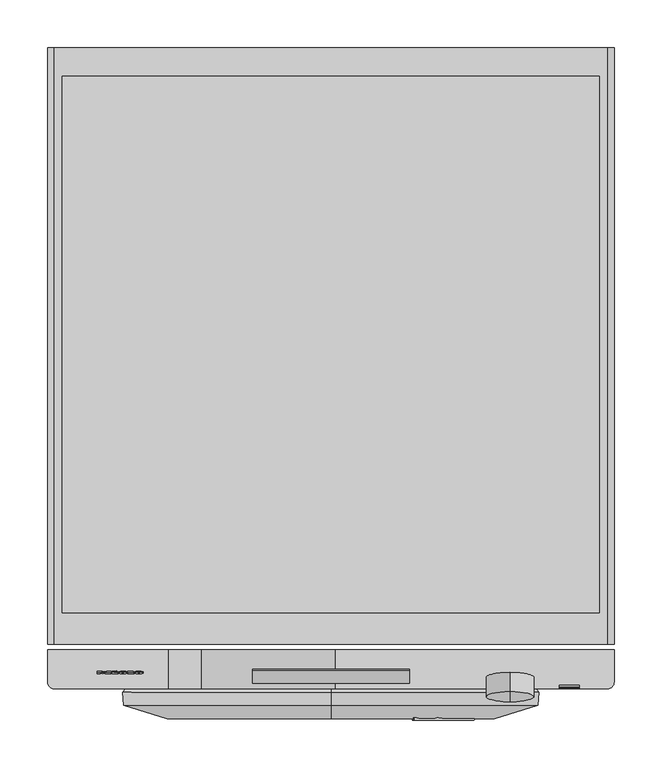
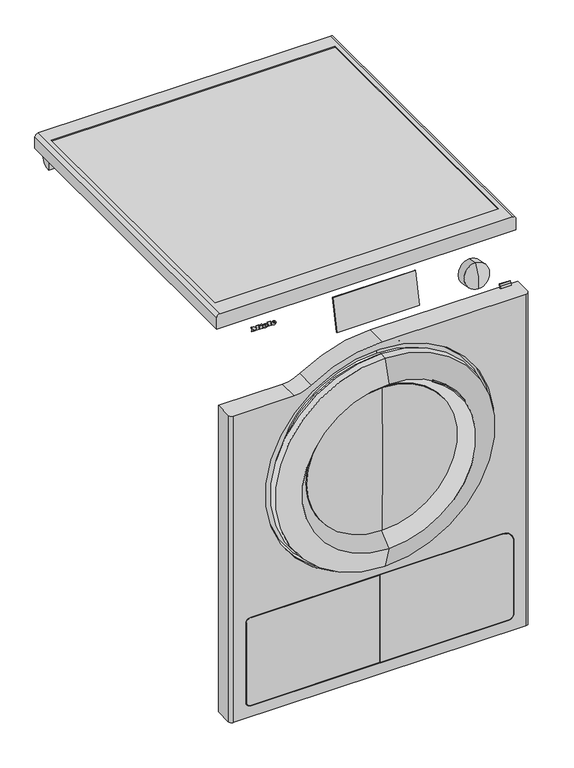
"""IFC4 building model written with IfcOpenShell, lengths in millimetres: proxy geometry, 12752390_B_PDR508ROPEL_LW : 52508362_B_12752390_PDR508ROPEL_LW."""

from ifc_helpers import new_model, si_unit, point, frame, frame_2d, origin, place, context, project, spatial, polyline, circle_curve, ellipse_curve, trimmed, segment, composite_curve, outline, extrude, source, transform, mapped, element, save
from ifc_brep_helpers import plane_surface, cylinder_surface, revolved_surface, extruded_surface, advanced_brep


def specialty_equipment_35a6990b(model_context):
    return source(origin(), model_context, "Body", "SolidModel", [
        advanced_brep(
        [(-202.64, -660.6785086, 811.5729364), (-202.64, -660.5105159, 812.3632796), (-197.288, -660.5105159, 812.3632796), (-206.6, -660.5105159, 812.3632796), (-204.4, -661.0727091, 809.7183685), (-197.424, -660.6785086, 811.5729364), (-199.84, -660.6785086, 811.5729364), (-201.744, -660.8647975, 810.6965161), (-202.64, -660.2976144, 813.3649028), (-202.64, -660.1163154, 814.2178475), (-201.272, -660.1163154, 814.2178475), (-201.272, -660.2976144, 813.3649028), (-202.64, -659.700361, 811.3650247), (-201.744, -659.8866499, 810.4886044), (-199.84, -659.700361, 811.3650247), (-197.424, -659.700361, 811.3650247), (-204.4, -660.0945615, 809.5104568), (-206.6, -659.5323683, 812.1553679), (-197.288, -659.5323683, 812.1553679), (-202.64, -659.5323683, 812.1553679), (-202.64, -659.3194668, 813.1569911), (-201.272, -659.3194668, 813.1569911), (-201.272, -659.1381678, 814.0099358), (-202.64, -659.1381678, 814.0099358)],
        [
            (0, 1),
            (1, 2),
            (2, 3, ellipse_curve(frame((-201.944, -660.5105159, 812.3632796), z_axis=(0.0, -0.9781476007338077, 0.2079116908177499), x_axis=(-1.0, 0.0, 0.0)), 4.656, 3.848)),
            (3, 4, circle_curve(frame((-203.5039564, -660.453964, 812.6293358), z_axis=(0.0, -0.9781476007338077, 0.2079116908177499), x_axis=(0.0, -0.2079116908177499, -0.9781476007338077)), 3.1079688)),
            (4, 5, circle_curve(frame((-202.0372064, -660.0148545, 814.6951835), z_axis=(0.0, -0.9781476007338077, 0.2079116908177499), x_axis=(0.0, -0.2079116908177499, -0.9781476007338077)), 5.6098607)),
            (5, 6),
            (6, 7, circle_curve(frame((-201.3529412, -660.5238223, 812.3006782), z_axis=(0.0, 0.9781476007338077, -0.2079116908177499), x_axis=(0.0, -0.2079116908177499, -0.9781476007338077)), 1.6859795)),
            (7, 0, circle_curve(frame((-201.744, -660.6785086, 811.5729364), z_axis=(0.0, 0.9781476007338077, -0.2079116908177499), x_axis=(0.0, -0.2079116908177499, -0.9781476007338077)), 0.896)),
            (8, 9),
            (9, 10, circle_curve(frame((-201.956, -660.1163154, 814.2178475), z_axis=(0.0, 0.9781476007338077, -0.2079116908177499), x_axis=(0.0, -0.2079116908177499, -0.9781476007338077)), 0.684)),
            (10, 11),
            (11, 8),
            (12, 13, circle_curve(frame((-201.744, -659.700361, 811.3650247), z_axis=(0.0, -0.9781476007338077, 0.2079116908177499), x_axis=(0.0, -0.2079116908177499, -0.9781476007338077)), 0.896)),
            (13, 14, circle_curve(frame((-201.3529412, -659.5456747, 812.0927665), z_axis=(0.0, -0.9781476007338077, 0.2079116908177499), x_axis=(0.0, -0.2079116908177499, -0.9781476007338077)), 1.6859795)),
            (14, 15),
            (15, 16, circle_curve(frame((-202.0372064, -659.0367069, 814.4872718), z_axis=(0.0, 0.9781476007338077, -0.2079116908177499), x_axis=(0.0, -0.2079116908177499, -0.9781476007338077)), 5.6098607)),
            (16, 17, circle_curve(frame((-203.5039564, -659.4758164, 812.4214241), z_axis=(0.0, 0.9781476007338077, -0.2079116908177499), x_axis=(0.0, -0.2079116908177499, -0.9781476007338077)), 3.1079688)),
            (17, 18, ellipse_curve(frame((-201.944, -659.5323683, 812.1553679), z_axis=(0.0, 0.9781476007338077, -0.2079116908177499), x_axis=(-1.0, 0.0, 0.0)), 4.656, 3.848)),
            (18, 19),
            (19, 12),
            (20, 21),
            (21, 22),
            (22, 23, circle_curve(frame((-201.956, -659.1381678, 814.0099358), z_axis=(0.0, -0.9781476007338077, 0.2079116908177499), x_axis=(0.0, -0.2079116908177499, -0.9781476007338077)), 0.684)),
            (23, 20),
            (0, 12),
            (19, 1),
            (18, 2),
            (5, 15),
            (14, 6),
            (17, 3),
            (13, 7),
            (16, 4),
            (8, 20),
            (23, 9),
            (22, 10),
            (21, 11),
        ],
        [
            plane_surface(frame((-202.64, -660.5105159, 812.3632796), z_axis=(0.0, -0.9781476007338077, 0.2079116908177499), x_axis=(0.0, 0.2079116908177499, 0.9781476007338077))),
            plane_surface(frame((-202.64, -659.5323683, 812.1553679), z_axis=(0.0, 0.9781476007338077, -0.2079116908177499), x_axis=(0.0, -0.2079116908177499, -0.9781476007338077))),
            plane_surface(frame((-202.64, -660.6785086, 811.5729364), z_axis=(1.0000000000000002, 0.0, 0.0), x_axis=(0.0, 0.978147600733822, -0.20791169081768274))),
            plane_surface(frame((-202.64, -660.5105159, 812.3632796), z_axis=(0.0, -0.20791169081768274, -0.978147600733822), x_axis=(0.0, 0.978147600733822, -0.20791169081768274))),
            plane_surface(frame((-197.424, -660.6785086, 811.5729364), z_axis=(0.0, 0.20791169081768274, 0.978147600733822), x_axis=(0.0, 0.978147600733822, -0.20791169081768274))),
            extruded_surface(trimmed(ellipse_curve(frame((-201.944, -658.5542207, 811.9474562), z_axis=(0.0, -0.9781476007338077, 0.2079116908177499), x_axis=(-1.0, 0.0, 0.0)), 4.656, 3.848), [point((-197.288, -658.5542207, 811.9474562))], [point((-206.6, -658.5542207, 811.9474562))], True, "CARTESIAN"), (0.0, -0.9781476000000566, 0.20791169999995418), 1.0000000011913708),
            revolved_surface(polyline([(-201.3529412, -659.896209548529, 810.4436296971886), (-201.3529412, -660.8743571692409, 810.6515413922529)]), (-201.3529412, -659.5456747, 812.0927665), (0.0, 0.9781476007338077, -0.2079116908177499)),
            revolved_surface(polyline([(-201.744, -659.8866498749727, 810.4886044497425), (-201.744, -660.8647974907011, 810.6965161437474)]), (-201.744, -659.700361, 811.3650247), (0.0, 0.9781476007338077, -0.2079116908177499)),
            cylinder_surface(frame((-203.5039564, -659.4758164, 812.4214241), z_axis=(0.0, -0.9781476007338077, 0.2079116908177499), x_axis=(0.0, -0.2079116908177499, -0.9781476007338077)), 3.1079688),
            cylinder_surface(frame((-202.0372064, -659.0367069, 814.4872718), z_axis=(0.0, -0.9781476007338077, 0.2079116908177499), x_axis=(0.0, -0.2079116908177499, -0.9781476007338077)), 5.6098607),
            plane_surface(frame((-202.64, -660.2976144, 813.3649028), z_axis=(1.0000000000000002, 0.0, 0.0), x_axis=(0.0, 0.9781476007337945, -0.20791169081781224))),
            revolved_surface(polyline([(-201.956, -659.2803793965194, 813.340882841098), (-201.956, -660.2585269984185, 813.5487945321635)]), (-201.956, -659.1381678, 814.0099358), (0.0, 0.9781476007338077, -0.2079116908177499)),
            plane_surface(frame((-201.272, -660.1163154, 814.2178475), z_axis=(-1.0000000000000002, 0.0, 0.0), x_axis=(0.0, 0.978147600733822, -0.20791169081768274))),
            plane_surface(frame((-201.272, -660.2976144, 813.3649028), z_axis=(0.0, 0.20791169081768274, 0.978147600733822), x_axis=(0.0, 0.978147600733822, -0.20791169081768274))),
        ],
        [
            (0, [[1, 2, 3, 4, 5, 6, 7, 8], [9, 10, 11, 12]]),
            (1, [[13, 14, 15, 16, 17, 18, 19, 20], [21, 22, 23, 24]]),
            (2, [[-1, 25, -20, 26]]),
            (3, [[-2, -26, -19, 27]]),
            (4, [[-6, 28, -15, 29]]),
            (5, [[-3, -27, -18, 30]]),
            (6, [[-7, -29, -14, 31]]),
            (7, [[-8, -31, -13, -25]]),
            (8, [[-4, -30, -17, 32]]),
            (9, [[-5, -32, -16, -28]]),
            (10, [[-9, 33, -24, 34]]),
            (11, [[-10, -34, -23, 35]]),
            (12, [[-11, -35, -22, 36]]),
            (13, [[-12, -36, -21, -33]]),
        ],
    ),
        advanced_brep(
        [(-219.336, -660.6785086, 811.5729364), (-219.336, -660.5105159, 812.3632796), (-213.984, -660.5105159, 812.3632796), (-223.296, -660.5105159, 812.3632796), (-221.096, -661.0727091, 809.7183685), (-214.12, -660.6785086, 811.5729364), (-216.536, -660.6785086, 811.5729364), (-218.44, -660.8647975, 810.6965161), (-219.336, -660.2976144, 813.3649028), (-219.336, -660.1163154, 814.2178475), (-217.968, -660.1163154, 814.2178475), (-217.968, -660.2976144, 813.3649028), (-219.336, -659.700361, 811.3650247), (-218.44, -659.8866499, 810.4886044), (-216.536, -659.700361, 811.3650247), (-214.12, -659.700361, 811.3650247), (-221.096, -660.0945615, 809.5104568), (-223.296, -659.5323683, 812.1553679), (-213.984, -659.5323683, 812.1553679), (-219.336, -659.5323683, 812.1553679), (-219.336, -659.3194668, 813.1569911), (-217.968, -659.3194668, 813.1569911), (-217.968, -659.1381678, 814.0099358), (-219.336, -659.1381678, 814.0099358)],
        [
            (0, 1),
            (1, 2),
            (2, 3, ellipse_curve(frame((-218.64, -660.5105159, 812.3632796), z_axis=(0.0, -0.9781476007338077, 0.2079116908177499), x_axis=(-1.0, 0.0, 0.0)), 4.656, 3.848)),
            (3, 4, circle_curve(frame((-220.1999564, -660.453964, 812.6293358), z_axis=(0.0, -0.9781476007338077, 0.2079116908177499), x_axis=(0.0, -0.2079116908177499, -0.9781476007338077)), 3.1079688)),
            (4, 5, circle_curve(frame((-218.7332064, -660.0148545, 814.6951835), z_axis=(0.0, -0.9781476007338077, 0.2079116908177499), x_axis=(0.0, -0.2079116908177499, -0.9781476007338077)), 5.6098607)),
            (5, 6),
            (6, 7, circle_curve(frame((-218.0489412, -660.5238223, 812.3006782), z_axis=(0.0, 0.9781476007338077, -0.2079116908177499), x_axis=(0.0, -0.2079116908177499, -0.9781476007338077)), 1.6859795)),
            (7, 0, circle_curve(frame((-218.44, -660.6785086, 811.5729364), z_axis=(0.0, 0.9781476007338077, -0.2079116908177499), x_axis=(0.0, -0.2079116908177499, -0.9781476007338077)), 0.896)),
            (8, 9),
            (9, 10, circle_curve(frame((-218.652, -660.1163154, 814.2178475), z_axis=(0.0, 0.9781476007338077, -0.2079116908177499), x_axis=(0.0, -0.2079116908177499, -0.9781476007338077)), 0.684)),
            (10, 11),
            (11, 8),
            (12, 13, circle_curve(frame((-218.44, -659.700361, 811.3650247), z_axis=(0.0, -0.9781476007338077, 0.2079116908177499), x_axis=(0.0, -0.2079116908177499, -0.9781476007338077)), 0.896)),
            (13, 14, circle_curve(frame((-218.0489412, -659.5456747, 812.0927665), z_axis=(0.0, -0.9781476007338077, 0.2079116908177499), x_axis=(0.0, -0.2079116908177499, -0.9781476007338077)), 1.6859795)),
            (14, 15),
            (15, 16, circle_curve(frame((-218.7332064, -659.0367069, 814.4872718), z_axis=(0.0, 0.9781476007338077, -0.2079116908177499), x_axis=(0.0, -0.2079116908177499, -0.9781476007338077)), 5.6098607)),
            (16, 17, circle_curve(frame((-220.1999564, -659.4758164, 812.4214241), z_axis=(0.0, 0.9781476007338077, -0.2079116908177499), x_axis=(0.0, -0.2079116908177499, -0.9781476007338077)), 3.1079688)),
            (17, 18, ellipse_curve(frame((-218.64, -659.5323683, 812.1553679), z_axis=(0.0, 0.9781476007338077, -0.2079116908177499), x_axis=(-1.0, 0.0, 0.0)), 4.656, 3.848)),
            (18, 19),
            (19, 12),
            (20, 21),
            (21, 22),
            (22, 23, circle_curve(frame((-218.652, -659.1381678, 814.0099358), z_axis=(0.0, -0.9781476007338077, 0.2079116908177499), x_axis=(0.0, -0.2079116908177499, -0.9781476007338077)), 0.684)),
            (23, 20),
            (0, 12),
            (19, 1),
            (18, 2),
            (5, 15),
            (14, 6),
            (17, 3),
            (13, 7),
            (16, 4),
            (8, 20),
            (23, 9),
            (22, 10),
            (21, 11),
        ],
        [
            plane_surface(frame((-219.336, -660.5105159, 812.3632796), z_axis=(0.0, -0.9781476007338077, 0.2079116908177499), x_axis=(0.0, 0.2079116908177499, 0.9781476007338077))),
            plane_surface(frame((-219.336, -659.5323683, 812.1553679), z_axis=(0.0, 0.9781476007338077, -0.2079116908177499), x_axis=(0.0, -0.2079116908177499, -0.9781476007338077))),
            plane_surface(frame((-219.336, -660.6785086, 811.5729364), z_axis=(1.0000000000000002, 0.0, 0.0), x_axis=(0.0, 0.978147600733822, -0.20791169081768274))),
            plane_surface(frame((-219.336, -660.5105159, 812.3632796), z_axis=(0.0, -0.20791169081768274, -0.978147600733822), x_axis=(0.0, 0.978147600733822, -0.20791169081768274))),
            plane_surface(frame((-214.12, -660.6785086, 811.5729364), z_axis=(0.0, 0.20791169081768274, 0.978147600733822), x_axis=(0.0, 0.978147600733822, -0.20791169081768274))),
            extruded_surface(trimmed(ellipse_curve(frame((-218.64, -658.5542207, 811.9474562), z_axis=(0.0, -0.9781476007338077, 0.2079116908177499), x_axis=(-1.0, 0.0, 0.0)), 4.656, 3.848), [point((-213.984, -658.5542207, 811.9474562))], [point((-223.296, -658.5542207, 811.9474562))], True, "CARTESIAN"), (0.0, -0.9781476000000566, 0.20791169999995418), 1.0000000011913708),
            revolved_surface(polyline([(-218.0489412, -659.896209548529, 810.4436296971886), (-218.0489412, -660.8743571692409, 810.6515413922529)]), (-218.0489412, -659.5456747, 812.0927665), (0.0, 0.9781476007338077, -0.2079116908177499)),
            revolved_surface(polyline([(-218.44, -659.8866498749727, 810.4886044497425), (-218.44, -660.8647974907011, 810.6965161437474)]), (-218.44, -659.700361, 811.3650247), (0.0, 0.9781476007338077, -0.2079116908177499)),
            cylinder_surface(frame((-220.1999564, -659.4758164, 812.4214241), z_axis=(0.0, -0.9781476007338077, 0.2079116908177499), x_axis=(0.0, -0.2079116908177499, -0.9781476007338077)), 3.1079688),
            cylinder_surface(frame((-218.7332064, -659.0367069, 814.4872718), z_axis=(0.0, -0.9781476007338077, 0.2079116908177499), x_axis=(0.0, -0.2079116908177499, -0.9781476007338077)), 5.6098607),
            plane_surface(frame((-219.336, -660.2976144, 813.3649028), z_axis=(1.0000000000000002, 0.0, 0.0), x_axis=(0.0, 0.9781476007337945, -0.20791169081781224))),
            revolved_surface(polyline([(-218.652, -659.2803793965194, 813.340882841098), (-218.652, -660.2585269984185, 813.5487945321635)]), (-218.652, -659.1381678, 814.0099358), (0.0, 0.9781476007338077, -0.2079116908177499)),
            plane_surface(frame((-217.968, -660.1163154, 814.2178475), z_axis=(-1.0000000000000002, 0.0, 0.0), x_axis=(0.0, 0.978147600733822, -0.20791169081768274))),
            plane_surface(frame((-217.968, -660.2976144, 813.3649028), z_axis=(0.0, 0.20791169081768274, 0.978147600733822), x_axis=(0.0, 0.978147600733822, -0.20791169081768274))),
        ],
        [
            (0, [[1, 2, 3, 4, 5, 6, 7, 8], [9, 10, 11, 12]]),
            (1, [[13, 14, 15, 16, 17, 18, 19, 20], [21, 22, 23, 24]]),
            (2, [[-1, 25, -20, 26]]),
            (3, [[-2, -26, -19, 27]]),
            (4, [[-6, 28, -15, 29]]),
            (5, [[-3, -27, -18, 30]]),
            (6, [[-7, -29, -14, 31]]),
            (7, [[-8, -31, -13, -25]]),
            (8, [[-4, -30, -17, 32]]),
            (9, [[-5, -32, -16, -28]]),
            (10, [[-9, 33, -24, 34]]),
            (11, [[-10, -34, -23, 35]]),
            (12, [[-11, -35, -22, 36]]),
            (13, [[-12, -36, -21, -33]]),
        ],
    ),
        extrude(outline(polyline([(0.0, 0.0), (-0.0109087, -2.9993294), (-1.4390416, -2.9920868), (-1.4315307, 0.0), (0.0, 0.0)])), frame((-228.08, -658.5294023, 816.873952), z_axis=(0.0, -0.9781476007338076, 0.20791169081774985), x_axis=(-0.42472021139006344, 0.18822758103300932, 0.8855411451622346)), (0.0, 0.0, 1.0), 1.0),
        extrude(outline(polyline([(-0.4933908, 2.4141097), (-2.7800844, -2.4601583), (-7.0459742, -0.4588766), (-7.4401146, -1.2990179), (-8.6568709, -0.728194), (-5.976037, 4.9862153), (-4.7592806, 4.4153913), (-5.1636142, 3.5535223), (-2.1941494, 2.16044), (-1.7898157, 3.0223091), (-0.4933908, 2.4141097)])), frame((-228.08, -658.5294023, 816.873952), z_axis=(0.0, -0.9781476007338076, 0.20791169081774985), x_axis=(-0.42472021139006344, 0.18822758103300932, 0.8855411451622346)), (0.0, 0.0, 1.0), 1.0),
        extrude(outline(polyline([(0.0, 0.0), (0.0, -1.3039999), (-5.504, -1.3039999), (-5.504, 5.352), (-6.488, 5.352), (-6.488, 6.696), (0.0, 6.696), (0.0, 5.352), (-0.96, 5.352), (-0.96, 0.0), (0.0, 0.0)])), frame((-213.536, -658.7023849, 816.0601332), z_axis=(0.0, -0.9781476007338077, 0.2079116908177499), x_axis=(-1.0, 0.0, 0.0)), (0.0, 0.0, 1.0), 1.0),
        extrude(outline(polyline([(0.0, 0.0), (0.0, -1.3039999), (-5.576, -1.3039999), (-7.92, 1.6960001), (-10.256, -1.3039999), (-15.128, -1.3039999), (-15.128, 0.0), (-14.112, 0.0), (-14.112, 5.352), (-15.128, 5.352), (-15.128, 6.696), (-8.744, 6.696), (-8.744, 5.352), (-9.728, 5.352), (-9.728, 1.8807777), (-6.136, 6.696), (-2.56, 1.9488753), (-2.56, 5.352), (-3.52, 5.352), (-3.52, 6.696), (0.0, 6.696), (0.0, 5.352), (-0.968, 5.352), (-0.968, 0.0), (0.0, 0.0)])), frame((-246.0, -658.7023849, 816.0601332), z_axis=(0.0, -0.9781476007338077, 0.2079116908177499), x_axis=(-1.0, 0.0, 0.0)), (0.0, 0.0, 1.0), 1.0),
        extrude(outline(composite_curve([segment(trimmed(circle_curve(frame_2d((579.5, 0.0)), 230.0), [point((386.3181818, 124.8230152))], [point((386.3181818, -124.8230152))], True, "CARTESIAN"), True, "CONTINUOUS"), segment(trimmed(circle_curve(frame_2d((469.5, 0.0)), 150.0), [point((386.3181818, -124.8230152))], [point((386.3181818, 124.8230152))], False, "CARTESIAN"), True, "CONTINUOUS")], self_intersect=False)), frame((0.0, -680.8, 0.0), z_axis=(0.0, 1.0, 0.0), x_axis=(0.0, 0.0, 1.0)), (0.0, 0.0, 1.0), 12.6),
        advanced_brep(
        [(86.55, -710.167863, 619.4089974), (86.55, -707.167863, 619.4089974), (149.9089974, -710.167863, 556.05), (149.9089974, -707.167863, 556.05)],
        [
            (0, 1, circle_curve(frame((86.55, -708.667863, 619.4089974), z_axis=(-0.8660254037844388, 0.0, 0.49999999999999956), x_axis=(0.0, 1.0, 0.0)), 1.5)),
            (1, 0, circle_curve(frame((86.55, -708.667863, 619.4089974), z_axis=(-0.8660254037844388, 0.0, 0.49999999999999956), x_axis=(0.0, 1.0, 0.0)), 1.5)),
            (2, 3, circle_curve(frame((149.9089974, -708.667863, 556.05), z_axis=(0.5000000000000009, 0.0, -0.8660254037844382), x_axis=(0.0, 1.0, 0.0)), 1.5)),
            (3, 2, circle_curve(frame((149.9089974, -708.667863, 556.05), z_axis=(0.5000000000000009, 0.0, -0.8660254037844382), x_axis=(0.0, 1.0, 0.0)), 1.5)),
            (2, 0, circle_curve(frame((0.0, -710.167863, 469.5), z_axis=(0.0, -1.0, 0.0), x_axis=(0.49999999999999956, 0.0, 0.8660254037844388)), 173.1)),
            (1, 3, circle_curve(frame((0.0, -707.167863, 469.5), z_axis=(0.0, 1.0, 0.0), x_axis=(0.49999999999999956, 0.0, 0.8660254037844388)), 173.1)),
        ],
        [
            plane_surface(frame((0.0, 1543.3738435, 469.5), z_axis=(-0.8660254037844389, 0.0, 0.4999999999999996), x_axis=(0.4999999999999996, 0.0, 0.8660254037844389))),
            plane_surface(frame((0.0, 1543.3738435, 469.5), z_axis=(0.5000000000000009, 0.0, -0.8660254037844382), x_axis=(0.8660254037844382, 0.0, 0.5000000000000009))),
            revolved_surface(trimmed(ellipse_curve(frame((86.55, -708.667863, 619.4089974), z_axis=(0.8660254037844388, 0.0, -0.49999999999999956), x_axis=(0.0, 1.0, 0.0)), 1.5, 1.5), [point((86.55, -710.167863, 619.4089974))], [point((86.55, -707.167863, 619.4089974))], True, "CARTESIAN"), (0.0, 1543.3738435, 469.5), (0.0, -1.0, 0.0)),
            revolved_surface(trimmed(ellipse_curve(frame((86.55, -708.667863, 619.4089974), z_axis=(0.8660254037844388, 0.0, -0.49999999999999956), x_axis=(0.0, 1.0, 0.0)), 1.5, 1.5), [point((86.55, -707.167863, 619.4089974))], [point((86.55, -710.167863, 619.4089974))], True, "CARTESIAN"), (0.0, 1543.3738435, 469.5), (0.0, -1.0, 0.0)),
        ],
        [
            (0, [[1, 2]]),
            (1, [[3, 4]]),
            (2, [[5, -2, 6, -3]]),
            (3, [[-6, -1, -5, -4]]),
        ],
    ),
        advanced_brep(
        [(0.0, -668.2, 319.5), (0.0, -668.2, 619.5), (0.0, -680.5454628, 619.5), (0.0, -680.5454628, 319.5), (0.0, -668.2, 305.5), (0.0, -668.2, 633.5), (0.0, -665.0, 294.0), (0.0, -665.0, 645.0), (0.0, -665.0, 262.2782663), (0.0, -665.0, 676.7217337), (0.0, -680.8, 249.3), (0.0, -680.8, 689.7), (0.0, -694.2157986, 250.5), (0.0, -694.2157986, 688.5), (0.0, -708.667863, 296.4), (0.0, -708.667863, 642.6)],
        [
            (0, 1, circle_curve(frame((0.0, -668.2, 469.5), z_axis=(0.0, 1.0, 0.0), x_axis=(0.0, 0.0, 1.0)), 150.0)),
            (1, 2),
            (2, 3, circle_curve(frame((0.0, -680.5454628, 469.5), z_axis=(0.0, -1.0, 0.0), x_axis=(0.0, 0.0, 1.0)), 150.0)),
            (3, 0),
            (1, 0, circle_curve(frame((0.0, -668.2, 469.5), z_axis=(0.0, 1.0, 0.0), x_axis=(0.0, 0.0, 1.0)), 150.0)),
            (3, 2, circle_curve(frame((0.0, -680.5454628, 469.5), z_axis=(0.0, -1.0, 0.0), x_axis=(0.0, 0.0, 1.0)), 150.0)),
            (4, 5, circle_curve(frame((0.0, -668.2, 469.5), z_axis=(0.0, 1.0, 0.0), x_axis=(0.0, 0.0, 1.0)), 164.0)),
            (5, 1),
            (0, 4),
            (5, 4, circle_curve(frame((0.0, -668.2, 469.5), z_axis=(0.0, 1.0, 0.0), x_axis=(0.0, 0.0, 1.0)), 164.0)),
            (6, 7, circle_curve(frame((0.0, -665.0, 469.5), z_axis=(0.0, 1.0, 0.0), x_axis=(0.0, 0.0, 1.0)), 175.5)),
            (7, 5),
            (4, 6),
            (7, 6, circle_curve(frame((0.0, -665.0, 469.5), z_axis=(0.0, 1.0, 0.0), x_axis=(0.0, 0.0, 1.0)), 175.5)),
            (8, 9, circle_curve(frame((0.0, -665.0, 469.5), z_axis=(0.0, 1.0, 0.0), x_axis=(0.0, 0.0, 1.0)), 207.2217337)),
            (9, 7),
            (6, 8),
            (9, 8, circle_curve(frame((0.0, -665.0, 469.5), z_axis=(0.0, 1.0, 0.0), x_axis=(0.0, 0.0, 1.0)), 207.2217337)),
            (10, 11, circle_curve(frame((0.0, -680.8, 469.5), z_axis=(0.0, 1.0, 0.0), x_axis=(0.0, 0.0, 1.0)), 220.2)),
            (11, 9),
            (8, 10),
            (11, 10, circle_curve(frame((0.0, -680.8, 469.5), z_axis=(0.0, 1.0, 0.0), x_axis=(0.0, 0.0, 1.0)), 220.2)),
            (12, 13, circle_curve(frame((0.0, -694.2157986, 469.5), z_axis=(0.0, 1.0, 0.0), x_axis=(0.0, 0.0, 1.0)), 219.0)),
            (13, 11),
            (10, 12),
            (13, 12, circle_curve(frame((0.0, -694.2157986, 469.5), z_axis=(0.0, 1.0, 0.0), x_axis=(0.0, 0.0, 1.0)), 219.0)),
            (14, 15, circle_curve(frame((0.0, -708.667863, 469.5), z_axis=(0.0, 1.0, 0.0), x_axis=(0.0, 0.0, 1.0)), 173.1)),
            (15, 13, circle_curve(frame((0.0, -129.6, 485.5), z_axis=(-1.0, 0.0, 0.0), x_axis=(0.0, 1.0, 0.0)), 600.0)),
            (12, 14, circle_curve(frame((0.0, -129.6, 453.5), z_axis=(-1.0, 0.0, 0.0), x_axis=(0.0, 1.0, 0.0)), 600.0)),
            (15, 14, circle_curve(frame((0.0, -708.667863, 469.5), z_axis=(0.0, 1.0, 0.0), x_axis=(0.0, 0.0, 1.0)), 173.1)),
            (2, 15),
            (14, 3),
        ],
        [
            revolved_surface(polyline([(0.0, -680.5454628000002, 619.5), (0.0, -668.2000000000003, 619.5)]), (0.0, 1543.3738435, 469.5), (0.0, -1.0, 0.0)),
            plane_surface(frame((0.0, -668.2, 469.5), z_axis=(0.0, 1.0, 0.0), x_axis=(0.0, 0.0, 1.0))),
            revolved_surface(polyline([(0.0, -668.2, 633.5), (0.0, -665.0, 645.0)]), (0.0, 1543.3738435, 469.5), (0.0, -1.0, 0.0)),
            plane_surface(frame((0.0, -665.0, 469.5), z_axis=(0.0, 1.0, 0.0), x_axis=(0.0, 0.0, 1.0))),
            revolved_surface(polyline([(0.0, -665.0, 676.7217337), (0.0, -680.8, 689.7)]), (0.0, 1543.3738435, 469.5), (0.0, -1.0, 0.0)),
            revolved_surface(polyline([(0.0, -680.8, 689.7), (0.0, -694.2157986, 688.5)]), (0.0, 1543.3738435, 469.5), (0.0, -1.0, 0.0)),
            revolved_surface(trimmed(ellipse_curve(frame((0.0, -129.6, 485.5), z_axis=(1.0, 0.0, 0.0), x_axis=(0.0, 1.0, 0.0)), 600.0, 600.0), [point((0.0, -694.2157986, 688.5))], [point((0.0, -708.667863, 642.6))], True, "CARTESIAN"), (0.0, 1543.3738435, 469.5), (0.0, -1.0, 0.0)),
            revolved_surface(polyline([(0.0, -708.667863, 642.6), (0.0, -680.5454628, 619.5)]), (0.0, 1543.3738435, 469.5), (0.0, -1.0, 0.0)),
        ],
        [
            (0, [[1, 2, 3, 4]]),
            (0, [[5, -4, 6, -2]]),
            (1, [[7, 8, -1, 9]]),
            (1, [[10, -9, -5, -8]]),
            (2, [[11, 12, -7, 13]]),
            (2, [[14, -13, -10, -12]]),
            (3, [[15, 16, -11, 17]]),
            (3, [[18, -17, -14, -16]]),
            (4, [[19, 20, -15, 21]]),
            (4, [[22, -21, -18, -20]]),
            (5, [[23, 24, -19, 25]]),
            (5, [[26, -25, -22, -24]]),
            (6, [[27, 28, -23, 29]]),
            (6, [[30, -29, -26, -28]]),
            (7, [[-3, 31, -27, 32]]),
            (7, [[-6, -32, -30, -31]]),
        ],
    ),
        advanced_brep(
        [(0.0, -681.3847498, 319.5), (0.0, -681.3847498, 619.5), (0.0, -684.2, 469.5), (0.0, -683.8865105, 319.5), (0.0, -683.8865105, 619.5), (0.0, -686.7, 469.5)],
        [
            (0, 1, circle_curve(frame((0.0, -681.3847498, 469.5), z_axis=(0.0, 1.0, 0.0), x_axis=(0.0, 0.0, 1.0)), 150.0)),
            (1, 2, circle_curve(frame((0.0, 3313.3, 469.5), z_axis=(1.0, 0.0, 0.0), x_axis=(0.0, 1.0, 0.0)), 3997.5)),
            (2, 0, circle_curve(frame((0.0, 3313.3, 469.5), z_axis=(1.0, 0.0, 0.0), x_axis=(0.0, 1.0, 0.0)), 3997.5)),
            (1, 0, circle_curve(frame((0.0, -681.3847498, 469.5), z_axis=(0.0, 1.0, 0.0), x_axis=(0.0, 0.0, 1.0)), 150.0)),
            (3, 4, circle_curve(frame((0.0, -683.8865105, 469.5), z_axis=(0.0, 1.0, 0.0), x_axis=(0.0, 0.0, 1.0)), 150.0)),
            (4, 1),
            (0, 3),
            (4, 3, circle_curve(frame((0.0, -683.8865105, 469.5), z_axis=(0.0, 1.0, 0.0), x_axis=(0.0, 0.0, 1.0)), 150.0)),
            (5, 4, circle_curve(frame((0.0, 3313.3, 469.5), z_axis=(-1.0, 0.0, 0.0), x_axis=(0.0, 1.0, 0.0)), 4000.0)),
            (3, 5, circle_curve(frame((0.0, 3313.3, 469.5), z_axis=(-1.0, 0.0, 0.0), x_axis=(0.0, 1.0, 0.0)), 4000.0)),
        ],
        [
            revolved_surface(trimmed(ellipse_curve(frame((0.0, 3313.3, 469.5), z_axis=(-1.0, 0.0, 0.0), x_axis=(0.0, 1.0, 0.0)), 3997.5, 3997.5), [point((0.0, -684.2, 469.5))], [point((0.0, -681.3847498, 619.5))], True, "CARTESIAN"), (0.0, 1543.3738435, 469.5), (0.0, -1.0, 0.0)),
            cylinder_surface(frame((0.0, 1543.3738435, 469.5), z_axis=(0.0, -1.0, 0.0), x_axis=(0.0, 0.0, 1.0)), 150.0),
            revolved_surface(trimmed(ellipse_curve(frame((0.0, 3313.3, 469.5), z_axis=(1.0, 0.0, 0.0), x_axis=(0.0, 1.0, 0.0)), 4000.0, 4000.0), [point((0.0, -683.8865105, 619.5))], [point((0.0, -686.7, 469.5))], True, "CARTESIAN"), (0.0, 1543.3738435, 469.5), (0.0, -1.0, 0.0)),
        ],
        [
            (0, [[1, 2, 3]]),
            (0, [[4, -3, -2]]),
            (1, [[5, 6, -1, 7]]),
            (1, [[8, -7, -4, -6]]),
            (2, [[9, -5, 10]]),
            (2, [[-10, -8, -9]]),
        ],
    ),
        advanced_brep(
        [(-291.0, -630.0, 845.0), (291.0, -630.0, 845.0), (291.0, -3.0, 845.0), (-291.0, -3.0, 845.0), (-282.5, -33.0, 845.0), (282.5, -33.0, 845.0), (282.5, -597.0, 845.0), (-282.5, -597.0, 845.0), (-282.5, -33.0, 842.7), (282.5, -33.0, 842.7), (298.0, -630.0, 815.0), (-298.0, -630.0, 815.0), (-298.0, -3.0, 815.0), (298.0, -3.0, 815.0), (298.0, -630.0, 838.0), (-298.0, -630.0, 838.0), (-298.0, -3.0, 838.0), (298.0, -3.0, 838.0), (-282.5, -597.0, 842.7), (282.5, -597.0, 842.7)],
        [
            (0, 1),
            (1, 2),
            (2, 3),
            (3, 0),
            (4, 5),
            (5, 6),
            (6, 7),
            (7, 4),
            (8, 9),
            (9, 5),
            (4, 8),
            (10, 11),
            (11, 12),
            (12, 13),
            (13, 10),
            (10, 14),
            (14, 1, circle_curve(frame((291.0, -630.0, 838.0), z_axis=(0.0, -1.0, 0.0), x_axis=(1.0, 0.0, 0.0)), 7.0)),
            (0, 15, circle_curve(frame((-291.0, -630.0, 838.0), z_axis=(0.0, -1.0, 0.0), x_axis=(1.0, 0.0, 0.0)), 7.0)),
            (15, 11),
            (12, 16),
            (16, 3, circle_curve(frame((-291.0, -3.0, 838.0), z_axis=(0.0, 1.0, 0.0), x_axis=(1.0, 0.0, 0.0)), 7.0)),
            (2, 17, circle_curve(frame((291.0, -3.0, 838.0), z_axis=(0.0, 1.0, 0.0), x_axis=(1.0, 0.0, 0.0)), 7.0)),
            (17, 13),
            (17, 14),
            (15, 16),
            (8, 18),
            (18, 19),
            (19, 9),
            (7, 18),
            (19, 6),
        ],
        [
            plane_surface(frame((291.0, -630.0, 845.0), z_axis=(0.0, 0.0, 1.0), x_axis=(0.0, 1.0, 0.0))),
            plane_surface(frame((282.5, -33.0, 845.0), z_axis=(0.0, -1.0, 0.0), x_axis=(0.0, 0.0, -1.0))),
            plane_surface(frame((-298.0, -630.0, 815.0), z_axis=(0.0, 0.0, -1.0), x_axis=(0.0, 1.0, 0.0))),
            plane_surface(frame((298.0, -630.0, 815.0), z_axis=(0.0, -1.0, 0.0), x_axis=(0.0, 0.0, 1.0))),
            plane_surface(frame((298.0, -3.0, 815.0), z_axis=(0.0, 1.0, 0.0), x_axis=(0.0, 0.0, -1.0))),
            plane_surface(frame((298.0, -630.0, 815.0), z_axis=(1.0, 0.0, 0.0), x_axis=(0.0, 1.0, 0.0))),
            plane_surface(frame((-298.0, -630.0, 838.0), z_axis=(-1.0, 0.0, 0.0), x_axis=(0.0, 1.0, 0.0))),
            cylinder_surface(frame((291.0, -3.0, 838.0), z_axis=(0.0, -1.0, 0.0), x_axis=(1.0, 0.0, 0.0)), 7.0),
            cylinder_surface(frame((-291.0, -3.0, 838.0), z_axis=(0.0, -1.0, 0.0), x_axis=(1.0, 0.0, 0.0)), 7.0),
            plane_surface(frame((-282.5, -33.0, 842.7), z_axis=(0.0, 0.0, 1.0), x_axis=(1.0, 0.0, 0.0))),
            plane_surface(frame((-282.5, -33.0, 845.0), z_axis=(1.0, 0.0, 0.0), x_axis=(0.0, 0.0, -1.0))),
            plane_surface(frame((282.5, -597.0, 845.0), z_axis=(-1.0, 0.0, 0.0), x_axis=(0.0, 0.0, -1.0))),
            plane_surface(frame((-282.5, -597.0, 845.0), z_axis=(0.0, 1.0, 0.0), x_axis=(0.0, 0.0, -1.0))),
        ],
        [
            (0, [[1, 2, 3, 4], [5, 6, 7, 8]]),
            (1, [[9, 10, -5, 11]]),
            (2, [[12, 13, 14, 15]]),
            (3, [[16, 17, -1, 18, 19, -12]]),
            (4, [[-14, 20, 21, -3, 22, 23]]),
            (5, [[-16, -15, -23, 24]]),
            (6, [[-19, 25, -20, -13]]),
            (7, [[-17, -24, -22, -2]]),
            (8, [[-18, -4, -21, -25]]),
            (9, [[-9, 26, 27, 28]]),
            (10, [[-26, -11, -8, 29]]),
            (11, [[-28, 30, -6, -10]]),
            (12, [[-27, -29, -7, -30]]),
        ],
    ),
        extrude(outline(composite_curve([segment(polyline([(-12.6220839, 815.0), (-12.6220839, 806.1251898)]), True, "CONTINUOUS"), segment(trimmed(circle_curve(frame_2d((-35.0, 806.1251898)), 22.3779161), [point((-12.6220839, 806.1251898))], [point((-34.0, 783.7696284))], False, "CARTESIAN"), True, "CONTINUOUS"), segment(polyline([(-34.0, 783.7696284), (-34.0, 815.0), (-12.6220839, 815.0)]), True, "CONTINUOUS")], self_intersect=False)), frame((264.2, 0.0, 0.0), z_axis=(1.0, 0.0, 0.0), x_axis=(0.0, 1.0, 0.0)), (0.0, 0.0, 1.0), 24.0),
        extrude(outline(composite_curve([segment(polyline([(-34.0, 783.7696284), (-34.0, 815.0), (-12.6220839, 815.0), (-12.6220839, 806.1251898)]), True, "CONTINUOUS"), segment(trimmed(circle_curve(frame_2d((-35.0, 806.1251898)), 22.3779161), [point((-12.6220839, 806.1251898))], [point((-34.0, 783.7696284))], False, "CARTESIAN"), True, "CONTINUOUS")], self_intersect=False)), frame((-288.2, 0.0, 0.0), z_axis=(1.0, 0.0, 0.0), x_axis=(0.0, 1.0, 0.0)), (0.0, 0.0, 1.0), 24.0),
        extrude(outline(composite_curve([segment(trimmed(circle_curve(frame_2d((427.0147084, 38.0)), 155.0), [point((311.4845296, 141.3333333))], [point((427.0147084, 193.0))], False, "CARTESIAN"), True, "CONTINUOUS"), segment(trimmed(circle_curve(frame_2d((387.1232766, 189.5231113)), 40.0426658), [point((427.0147084, 193.0))], [point((415.6484905, 161.421025))], False, "CARTESIAN"), True, "CONTINUOUS"), segment(trimmed(circle_curve(frame_2d((579.5, 0.0)), 230.0088355), [point((415.6484905, 161.421025))], [point((415.6783922, -161.4513711))], True, "CARTESIAN"), True, "CONTINUOUS"), segment(trimmed(circle_curve(frame_2d((387.1882141, -189.5293418)), 40.0007835), [point((415.6783922, -161.4513711))], [point((427.0381479, -192.9999982))], False, "CARTESIAN"), True, "CONTINUOUS"), segment(trimmed(circle_curve(frame_2d((427.0147084, -38.0)), 155.0), [point((427.0381479, -192.9999982))], [point((311.4845296, -141.3333333))], False, "CARTESIAN"), True, "CONTINUOUS"), segment(trimmed(circle_curve(frame_2d((469.5, 0.0)), 212.0), [point((311.4845296, -141.3333333))], [point((311.4845296, 141.3333333))], False, "CARTESIAN"), True, "CONTINUOUS")], self_intersect=False)), frame((0.0, -669.0, 0.0), z_axis=(0.0, 1.0, 0.0), x_axis=(0.0, 0.0, 1.0)), (0.0, 0.0, 1.0), 33.0),
        advanced_brep(
        [(257.0, -677.0, 38.0), (257.0, -636.0, 38.0), (266.0, -636.0, 47.0), (266.0, -677.0, 47.0), (266.0, -636.0, 200.0), (266.0, -677.0, 200.0), (244.0, -636.0, 222.0), (244.0, -677.0, 222.0), (1.0, -636.0, 38.0), (1.0, -636.0, 222.0), (1.0, -677.0, 38.0), (1.0, -677.0, 222.0)],
        [
            (0, 1),
            (1, 2, circle_curve(frame((257.0, -636.0, 47.0), z_axis=(0.0, -1.0, 0.0), x_axis=(1.0, 0.0, 0.0)), 9.0)),
            (2, 3),
            (3, 0, circle_curve(frame((257.0, -677.0, 47.0), z_axis=(0.0, 1.0, 0.0), x_axis=(1.0, 0.0, 0.0)), 9.0)),
            (4, 5),
            (5, 3),
            (2, 4),
            (6, 7),
            (7, 5, circle_curve(frame((244.0, -677.0, 200.0), z_axis=(0.0, 1.0, 0.0), x_axis=(1.0, 0.0, 0.0)), 22.0)),
            (4, 6, circle_curve(frame((244.0, -636.0, 200.0), z_axis=(0.0, -1.0, 0.0), x_axis=(1.0, 0.0, 0.0)), 22.0)),
            (1, 8),
            (8, 9),
            (9, 6),
            (10, 0),
            (7, 11),
            (11, 10),
            (10, 8),
            (11, 9),
        ],
        [
            cylinder_surface(frame((257.0, 0.0, 47.0), z_axis=(0.0, 1.0, 0.0), x_axis=(1.0, 0.0, 0.0)), 9.0),
            plane_surface(frame((266.0, -677.0, 200.0), z_axis=(1.0, 0.0, 0.0), x_axis=(0.0, 1.0, 0.0))),
            cylinder_surface(frame((244.0, 0.0, 200.0), z_axis=(0.0, 1.0, 0.0), x_axis=(1.0, 0.0, 0.0)), 22.0),
            plane_surface(frame((-298.0, -636.0, 711.0), z_axis=(0.0, 1.0, 0.0), x_axis=(1.0, 0.0, 0.0))),
            plane_surface(frame((-298.0, -677.0, 711.0), z_axis=(0.0, -1.0, 0.0), x_axis=(-1.0, 0.0, 0.0))),
            plane_surface(frame((257.0, -677.0, 38.0), z_axis=(0.0, 0.0, -1.0), x_axis=(0.0, 1.0, 0.0))),
            plane_surface(frame((1.0, -677.0, 38.0), z_axis=(-1.0, 0.0, 0.0), x_axis=(0.0, 1.0, 0.0))),
            plane_surface(frame((1.0, -677.0, 222.0), z_axis=(0.0, 0.0, 1.0), x_axis=(0.0, 1.0, 0.0))),
        ],
        [
            (0, [[1, 2, 3, 4]]),
            (1, [[5, 6, -3, 7]]),
            (2, [[8, 9, -5, 10]]),
            (3, [[11, 12, 13, -10, -7, -2]]),
            (4, [[14, -4, -6, -9, 15, 16]]),
            (5, [[17, -11, -1, -14]]),
            (6, [[-17, -16, 18, -12]]),
            (7, [[-18, -15, -8, -13]]),
        ],
    ),
        advanced_brep(
        [(0.0, -668.7, 242.0), (0.0, -668.7, 697.0), (0.0, -665.2, 693.5), (0.0, -665.2, 245.5), (0.0, -665.2, 257.5), (-141.3333333, -665.2, 311.4845296), (-193.0, -665.2, 427.0147084), (-193.0, -665.2, 511.9852916), (-141.3333333, -665.2, 627.5154704), (0.0, -665.2, 681.5), (298.0, -636.0, 711.0), (298.0, -636.0, 13.5), (-298.0, -636.0, 13.5), (-298.0, -636.0, 658.0), (-170.4793435, -636.0, 658.0), (-135.8816811, -636.0, 668.4495268), (5.0, -636.0, 711.0), (257.0, -636.0, 37.0), (267.0, -636.0, 47.0), (267.0, -636.0, 200.0), (244.0, -636.0, 223.0), (-257.0, -636.0, 223.0), (-267.0, -636.0, 213.0), (-267.0, -636.0, 47.0), (-257.0, -636.0, 37.0), (141.3333333, -636.0, 311.4845296), (193.0, -636.0, 427.0147084), (193.0, -636.0, 511.9852916), (141.3333333, -636.0, 627.5154704), (-141.3333333, -636.0, 627.5154704), (-193.0, -636.0, 511.9852916), (-193.0, -636.0, 427.0147084), (-141.3333333, -636.0, 311.4845296), (-291.0, -677.0, 13.5), (291.0, -677.0, 13.5), (291.0, -677.0, 711.0), (5.0, -677.0, 711.0), (-135.8816811, -677.0, 668.4495268), (-170.4793435, -677.0, 658.0), (-291.0, -677.0, 658.0), (0.0, -677.0, 242.0), (0.0, -677.0, 697.0), (267.0, -677.0, 47.0), (257.0, -677.0, 37.0), (-257.0, -677.0, 37.0), (-267.0, -677.0, 47.0), (-267.0, -677.0, 213.0), (-257.0, -677.0, 223.0), (244.0, -677.0, 223.0), (267.0, -677.0, 200.0), (298.0, -670.0, 711.0), (-298.0, -670.0, 13.5), (-298.0, -670.0, 658.0), (298.0, -670.0, 13.5), (141.3333333, -665.2, 627.5154704), (193.0, -665.2, 511.9852916), (193.0, -665.2, 427.0147084), (141.3333333, -665.2, 311.4845296)],
        [
            (0, 1, circle_curve(frame((0.0, -668.7, 469.5), z_axis=(0.0, -1.0, 0.0), x_axis=(0.0, 0.0, -1.0)), 227.5)),
            (1, 2, circle_curve(frame((0.0, -668.7, 693.5), z_axis=(-1.0, 0.0, 0.0), x_axis=(0.0, 1.0, 0.0)), 3.5)),
            (2, 3, circle_curve(frame((0.0, -665.2, 469.5), z_axis=(0.0, 1.0, 0.0), x_axis=(0.0, 0.0, -1.0)), 224.0)),
            (3, 0, circle_curve(frame((0.0, -668.7, 245.5), z_axis=(-1.0, 0.0, 0.0), x_axis=(0.0, 1.0, 0.0)), 3.5)),
            (2, 3, circle_curve(frame((0.0, -665.2, 469.5), z_axis=(0.0, -1.0, 0.0), x_axis=(0.0, 0.0, -1.0)), 224.0)),
            (3, 4),
            (4, 5, circle_curve(frame((0.0, -665.2, 469.5), z_axis=(0.0, 1.0, 0.0), x_axis=(1.0, 0.0, 0.0)), 212.0)),
            (5, 6, circle_curve(frame((-38.0, -665.2, 427.0147084), z_axis=(0.0, 1.0, 0.0), x_axis=(1.0, 0.0, 0.0)), 155.0)),
            (6, 7),
            (7, 8, circle_curve(frame((-38.0, -665.2, 511.9852916), z_axis=(0.0, 1.0, 0.0), x_axis=(1.0, 0.0, 0.0)), 155.0)),
            (8, 9, circle_curve(frame((0.0, -665.2, 469.5), z_axis=(0.0, 1.0, 0.0), x_axis=(1.0, 0.0, 0.0)), 212.0)),
            (9, 2),
            (10, 11),
            (11, 12),
            (12, 13),
            (13, 14),
            (14, 15, circle_curve(frame((-170.4793435, -636.0, 720.5), z_axis=(0.0, -1.0, 0.0), x_axis=(1.0, 0.0, 0.0)), 62.5)),
            (15, 16, circle_curve(frame((5.0, -636.0, 456.5), z_axis=(0.0, 1.0, 0.0), x_axis=(1.0, 0.0, 0.0)), 254.5)),
            (16, 10),
            (17, 18, circle_curve(frame((257.0, -636.0, 47.0), z_axis=(0.0, -1.0, 0.0), x_axis=(1.0, 0.0, 0.0)), 10.0)),
            (18, 19),
            (19, 20, circle_curve(frame((244.0, -636.0, 200.0), z_axis=(0.0, -1.0, 0.0), x_axis=(1.0, 0.0, 0.0)), 23.0)),
            (20, 21),
            (21, 22, circle_curve(frame((-257.0, -636.0, 213.0), z_axis=(0.0, -1.0, 0.0), x_axis=(1.0, 0.0, 0.0)), 10.0)),
            (22, 23),
            (23, 24, circle_curve(frame((-257.0, -636.0, 47.0), z_axis=(0.0, -1.0, 0.0), x_axis=(1.0, 0.0, 0.0)), 10.0)),
            (24, 17),
            (25, 26, circle_curve(frame((38.0, -636.0, 427.0147084), z_axis=(0.0, -1.0, 0.0), x_axis=(1.0, 0.0, 0.0)), 155.0)),
            (26, 27),
            (27, 28, circle_curve(frame((38.0, -636.0, 511.9852916), z_axis=(0.0, -1.0, 0.0), x_axis=(1.0, 0.0, 0.0)), 155.0)),
            (28, 29, circle_curve(frame((0.0, -636.0, 469.5), z_axis=(0.0, -1.0, 0.0), x_axis=(1.0, 0.0, 0.0)), 212.0)),
            (29, 30, circle_curve(frame((-38.0, -636.0, 511.9852916), z_axis=(0.0, -1.0, 0.0), x_axis=(1.0, 0.0, 0.0)), 155.0)),
            (30, 31),
            (31, 32, circle_curve(frame((-38.0, -636.0, 427.0147084), z_axis=(0.0, -1.0, 0.0), x_axis=(1.0, 0.0, 0.0)), 155.0)),
            (32, 25, circle_curve(frame((0.0, -636.0, 469.5), z_axis=(0.0, -1.0, 0.0), x_axis=(1.0, 0.0, 0.0)), 212.0)),
            (33, 34),
            (34, 35),
            (35, 36),
            (36, 37, circle_curve(frame((5.0, -677.0, 456.5), z_axis=(0.0, -1.0, 0.0), x_axis=(1.0, 0.0, 0.0)), 254.5)),
            (37, 38, circle_curve(frame((-170.4793435, -677.0, 720.5), z_axis=(0.0, 1.0, 0.0), x_axis=(1.0, 0.0, 0.0)), 62.5)),
            (38, 39),
            (39, 33),
            (40, 41, circle_curve(frame((0.0, -677.0, 469.5), z_axis=(0.0, 1.0, 0.0), x_axis=(0.0, 0.0, -1.0)), 227.5)),
            (41, 40, circle_curve(frame((0.0, -677.0, 469.5), z_axis=(0.0, 1.0, 0.0), x_axis=(0.0, 0.0, -1.0)), 227.5)),
            (42, 43, circle_curve(frame((257.0, -677.0, 47.0), z_axis=(0.0, 1.0, 0.0), x_axis=(1.0, 0.0, 0.0)), 10.0)),
            (43, 44),
            (44, 45, circle_curve(frame((-257.0, -677.0, 47.0), z_axis=(0.0, 1.0, 0.0), x_axis=(1.0, 0.0, 0.0)), 10.0)),
            (45, 46),
            (46, 47, circle_curve(frame((-257.0, -677.0, 213.0), z_axis=(0.0, 1.0, 0.0), x_axis=(1.0, 0.0, 0.0)), 10.0)),
            (47, 48),
            (48, 49, circle_curve(frame((244.0, -677.0, 200.0), z_axis=(0.0, 1.0, 0.0), x_axis=(1.0, 0.0, 0.0)), 23.0)),
            (49, 42),
            (50, 10),
            (16, 36),
            (35, 50, circle_curve(frame((291.0, -670.0, 711.0), z_axis=(0.0, 0.0, 1.0), x_axis=(-1.0, 0.0, 0.0)), 7.0)),
            (12, 51),
            (51, 52),
            (52, 13),
            (11, 53),
            (53, 34, circle_curve(frame((291.0, -670.0, 13.5), z_axis=(0.0, 0.0, -1.0), x_axis=(-1.0, 0.0, 0.0)), 7.0)),
            (33, 51, circle_curve(frame((-291.0, -670.0, 13.5), z_axis=(0.0, 0.0, -1.0), x_axis=(-1.0, 0.0, 0.0)), 7.0)),
            (50, 53),
            (15, 37),
            (14, 38),
            (52, 39, circle_curve(frame((-291.0, -670.0, 658.0), z_axis=(0.0, 0.0, 1.0), x_axis=(-1.0, 0.0, 0.0)), 7.0)),
            (1, 41),
            (40, 0),
            (0, 1, circle_curve(frame((0.0, -668.7, 469.5), z_axis=(0.0, 1.0, 0.0), x_axis=(0.0, 0.0, -1.0)), 227.5)),
            (9, 54, circle_curve(frame((0.0, -665.2, 469.5), z_axis=(0.0, 1.0, 0.0), x_axis=(1.0, 0.0, 0.0)), 212.0)),
            (54, 55, circle_curve(frame((38.0, -665.2, 511.9852916), z_axis=(0.0, 1.0, 0.0), x_axis=(1.0, 0.0, 0.0)), 155.0)),
            (55, 56),
            (56, 57, circle_curve(frame((38.0, -665.2, 427.0147084), z_axis=(0.0, 1.0, 0.0), x_axis=(1.0, 0.0, 0.0)), 155.0)),
            (57, 4, circle_curve(frame((0.0, -665.2, 469.5), z_axis=(0.0, 1.0, 0.0), x_axis=(1.0, 0.0, 0.0)), 212.0)),
            (25, 57),
            (56, 26),
            (55, 27),
            (54, 28),
            (8, 29),
            (7, 30),
            (6, 31),
            (5, 32),
            (42, 18),
            (17, 43),
            (49, 19),
            (48, 20),
            (47, 21),
            (46, 22),
            (45, 23),
            (44, 24),
        ],
        [
            revolved_surface(trimmed(ellipse_curve(frame((0.0, -668.7, 245.5), z_axis=(-1.0, 0.0, 0.0), x_axis=(0.0, 1.0, 0.0)), 3.5, 3.5), [point((0.0, -665.2, 245.5))], [point((0.0, -668.7, 242.0))], True, "CARTESIAN"), (0.0, 1543.3738435, 469.5), (0.0, 1.0, 0.0)),
            plane_surface(frame((0.0, -665.2, 469.5), z_axis=(0.0, -1.0, 0.0), x_axis=(0.0, 0.0, -1.0))),
            plane_surface(frame((-298.0, -636.0, 711.0), z_axis=(0.0, 1.0, 0.0), x_axis=(1.0, 0.0, 0.0))),
            plane_surface(frame((-298.0, -677.0, 711.0), z_axis=(0.0, -1.0, 0.0), x_axis=(-1.0, 0.0, 0.0))),
            plane_surface(frame((298.0, -677.0, 711.0), z_axis=(0.0, 0.0, 1.0), x_axis=(0.0, 1.0, 0.0))),
            plane_surface(frame((-298.0, -677.0, 711.0), z_axis=(-1.0, 0.0, 0.0), x_axis=(0.0, 1.0, 0.0))),
            plane_surface(frame((-298.0, -677.0, 13.5), z_axis=(0.0, 0.0, -1.0), x_axis=(0.0, 1.0, 0.0))),
            plane_surface(frame((298.0, -677.0, 13.5), z_axis=(1.0, 0.0, 0.0), x_axis=(0.0, 1.0, 0.0))),
            cylinder_surface(frame((5.0, -636.0, 456.5), z_axis=(0.0, 1.0, 0.0), x_axis=(1.0, 0.0, 0.0)), 254.5),
            revolved_surface(polyline([(-107.9793435, -677.0, 720.5), (-107.9793435, -636.0, 720.5)]), (-170.4793435, -636.0, 720.5), (0.0, -1.0, 0.0)),
            plane_surface(frame((-298.0, -677.0, 658.0), z_axis=(0.0, 0.0, 1.0), x_axis=(0.0, 1.0, 0.0))),
            revolved_surface(polyline([(0.0, -668.7000000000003, 242.0), (0.0, -677.0, 242.0)]), (0.0, 1543.3738435, 469.5), (0.0, 1.0, 0.0)),
            revolved_surface(polyline([(193.0, -665.2, 427.0147084), (193.0, -636.0, 427.0147084)]), (38.0, -636.0, 427.0147084), (0.0, -1.0, 0.0)),
            plane_surface(frame((193.0, -677.0, 427.0147084), z_axis=(-1.0, 0.0, 0.0), x_axis=(0.0, 1.0, 0.0))),
            revolved_surface(polyline([(193.0, -665.2, 511.9852916), (193.0, -636.0, 511.9852916)]), (38.0, -636.0, 511.9852916), (0.0, -1.0, 0.0)),
            revolved_surface(polyline([(212.0, -665.2, 469.5), (212.0, -636.0, 469.5)]), (0.0, -636.0, 469.5), (0.0, -1.0, 0.0)),
            revolved_surface(polyline([(117.0, -665.2, 511.9852916), (117.0, -636.0, 511.9852916)]), (-38.0, -636.0, 511.9852916), (0.0, -1.0, 0.0)),
            plane_surface(frame((-193.0, -677.0, 511.9852916), z_axis=(1.0, 0.0, 0.0), x_axis=(0.0, 1.0, 0.0))),
            revolved_surface(polyline([(117.0, -665.2, 427.0147084), (117.0, -636.0, 427.0147084)]), (-38.0, -636.0, 427.0147084), (0.0, -1.0, 0.0)),
            cylinder_surface(frame((-291.0, -670.0, 711.0), z_axis=(0.0, 0.0, -1.0), x_axis=(-1.0, 0.0, 0.0)), 7.0),
            cylinder_surface(frame((291.0, -670.0, 711.0), z_axis=(0.0, 0.0, -1.0), x_axis=(-1.0, 0.0, 0.0)), 7.0),
            revolved_surface(polyline([(267.0, -677.0, 47.0), (267.0, -636.0, 47.0)]), (257.0, -636.0, 47.0), (0.0, -1.0, 0.0)),
            plane_surface(frame((267.0, -677.0, 47.0), z_axis=(-1.0, 0.0, 0.0), x_axis=(0.0, 1.0, 0.0))),
            revolved_surface(polyline([(267.0, -677.0, 200.0), (267.0, -636.0, 200.0)]), (244.0, -636.0, 200.0), (0.0, -1.0, 0.0)),
            plane_surface(frame((244.0, -677.0, 223.0), z_axis=(0.0, 0.0, -1.0), x_axis=(0.0, 1.0, 0.0))),
            revolved_surface(polyline([(-247.0, -677.0, 213.0), (-247.0, -636.0, 213.0)]), (-257.0, -636.0, 213.0), (0.0, -1.0, 0.0)),
            plane_surface(frame((-267.0, -677.0, 213.0), z_axis=(1.0, 0.0, 0.0), x_axis=(0.0, 1.0, 0.0))),
            revolved_surface(polyline([(-247.0, -677.0, 47.0), (-247.0, -636.0, 47.0)]), (-257.0, -636.0, 47.0), (0.0, -1.0, 0.0)),
            plane_surface(frame((-257.0, -677.0, 37.0), z_axis=(0.0, 0.0, 1.0), x_axis=(0.0, 1.0, 0.0))),
        ],
        [
            (0, [[1, 2, 3, 4]]),
            (1, [[5, 6, 7, 8, 9, 10, 11, 12]]),
            (2, [[13, 14, 15, 16, 17, 18, 19], [20, 21, 22, 23, 24, 25, 26, 27], [28, 29, 30, 31, 32, 33, 34, 35]]),
            (3, [[36, 37, 38, 39, 40, 41, 42], [43, 44], [45, 46, 47, 48, 49, 50, 51, 52]]),
            (4, [[53, -19, 54, -38, 55]]),
            (5, [[56, 57, 58, -15]]),
            (6, [[-14, 59, 60, -36, 61, -56]]),
            (7, [[-13, -53, 62, -59]]),
            (8, [[63, -39, -54, -18]]),
            (9, [[-63, -17, 64, -40]]),
            (10, [[-64, -16, -58, 65, -41]]),
            (11, [[66, -43, 67, 68]]),
            (11, [[-66, -1, -67, -44]]),
            (0, [[-68, -4, -5, -2]]),
            (1, [[-3, -12, 69, 70, 71, 72, 73, -6]]),
            (12, [[74, -72, 75, -28]]),
            (13, [[-75, -71, 76, -29]]),
            (14, [[-76, -70, 77, -30]]),
            (15, [[-77, -69, -11, 78, -31]]),
            (16, [[-78, -10, 79, -32]]),
            (17, [[-79, -9, 80, -33]]),
            (18, [[-80, -8, 81, -34]]),
            (15, [[-74, -35, -81, -7, -73]]),
            (19, [[-61, -42, -65, -57]]),
            (20, [[-37, -60, -62, -55]]),
            (21, [[82, -20, 83, -45]]),
            (22, [[-82, -52, 84, -21]]),
            (23, [[-84, -51, 85, -22]]),
            (24, [[-85, -50, 86, -23]]),
            (25, [[-86, -49, 87, -24]]),
            (26, [[-87, -48, 88, -25]]),
            (27, [[-88, -47, 89, -26]]),
            (28, [[-83, -27, -89, -46]]),
        ],
    ),
        advanced_brep(
        [(-1.0, -636.0, 222.0), (-1.0, -636.0, 38.0), (-257.0, -636.0, 38.0), (-266.0, -636.0, 47.0), (-266.0, -636.0, 213.0), (-257.0, -636.0, 222.0), (-1.0, -677.0, 38.0), (-1.0, -677.0, 222.0), (-257.0, -677.0, 222.0), (-266.0, -677.0, 213.0), (-266.0, -677.0, 47.0), (-257.0, -677.0, 38.0)],
        [
            (0, 1),
            (1, 2),
            (2, 3, circle_curve(frame((-257.0, -636.0, 47.0), z_axis=(0.0, 1.0, 0.0), x_axis=(1.0, 0.0, 0.0)), 9.0)),
            (3, 4),
            (4, 5, circle_curve(frame((-257.0, -636.0, 213.0), z_axis=(0.0, 1.0, 0.0), x_axis=(1.0, 0.0, 0.0)), 9.0)),
            (5, 0),
            (6, 7),
            (7, 8),
            (8, 9, circle_curve(frame((-257.0, -677.0, 213.0), z_axis=(0.0, -1.0, 0.0), x_axis=(1.0, 0.0, 0.0)), 9.0)),
            (9, 10),
            (10, 11, circle_curve(frame((-257.0, -677.0, 47.0), z_axis=(0.0, -1.0, 0.0), x_axis=(1.0, 0.0, 0.0)), 9.0)),
            (11, 6),
            (1, 6),
            (11, 2),
            (10, 3),
            (0, 7),
            (9, 4),
            (8, 5),
        ],
        [
            plane_surface(frame((-298.0, -636.0, 711.0), z_axis=(0.0, 1.0, 0.0), x_axis=(1.0, 0.0, 0.0))),
            plane_surface(frame((-298.0, -677.0, 711.0), z_axis=(0.0, -1.0, 0.0), x_axis=(-1.0, 0.0, 0.0))),
            plane_surface(frame((-1.0, -677.0, 38.0), z_axis=(0.0, 0.0, -1.0), x_axis=(0.0, 1.0, 0.0))),
            cylinder_surface(frame((-257.0, 0.0, 47.0), z_axis=(0.0, 1.0, 0.0), x_axis=(1.0, 0.0, 0.0)), 9.0),
            plane_surface(frame((-1.0, -677.0, 222.0), z_axis=(1.0, 0.0, 0.0), x_axis=(0.0, 1.0, 0.0))),
            plane_surface(frame((-266.0, -677.0, 47.0), z_axis=(-1.0, 0.0, 0.0), x_axis=(0.0, 1.0, 0.0))),
            cylinder_surface(frame((-257.0, 0.0, 213.0), z_axis=(0.0, 1.0, 0.0), x_axis=(1.0, 0.0, 0.0)), 9.0),
            plane_surface(frame((-257.0, -677.0, 222.0), z_axis=(0.0, 0.0, 1.0), x_axis=(0.0, 1.0, 0.0))),
        ],
        [
            (0, [[1, 2, 3, 4, 5, 6]]),
            (1, [[7, 8, 9, 10, 11, 12]]),
            (2, [[13, -12, 14, -2]]),
            (3, [[-14, -11, 15, -3]]),
            (4, [[-13, -1, 16, -7]]),
            (5, [[-15, -10, 17, -4]]),
            (6, [[-17, -9, 18, -5]]),
            (7, [[-16, -6, -18, -8]]),
        ],
    ),
        advanced_brep(
        [(188.5, -665.0968325, 786.0), (188.5, -670.2946248, 761.54631), (188.5, -659.8990403, 810.45369), (188.5, -680.1294216, 814.7537903), (188.5, -690.5250061, 765.8464103), (188.5, -690.5250061, 791.4049251)],
        [
            (0, 1),
            (1, 2, circle_curve(frame((188.5, -665.0968325, 786.0), z_axis=(0.0, 0.9781476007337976, -0.2079116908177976), x_axis=(0.0, -0.2079116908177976, -0.9781476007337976)), 25.0)),
            (2, 0),
            (2, 1, circle_curve(frame((188.5, -665.0968325, 786.0), z_axis=(0.0, 0.9781476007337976, -0.2079116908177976), x_axis=(0.0, -0.2079116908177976, -0.9781476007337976)), 25.0)),
            (3, 4, circle_curve(frame((188.5, -685.3272138, 790.3001003), z_axis=(0.0, -0.9781476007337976, 0.2079116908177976), x_axis=(0.0, -0.2079116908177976, -0.9781476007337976)), 25.0)),
            (4, 5),
            (5, 3),
            (4, 3, circle_curve(frame((188.5, -685.3272138, 790.3001003), z_axis=(0.0, -0.9781476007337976, 0.2079116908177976), x_axis=(0.0, -0.2079116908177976, -0.9781476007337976)), 25.0)),
            (1, 4),
            (3, 2),
        ],
        [
            plane_surface(frame((188.5, -665.0968325, 786.0), z_axis=(0.0, 0.9781476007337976, -0.2079116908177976), x_axis=(0.0, -0.2079116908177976, -0.9781476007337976))),
            revolved_surface(polyline([(188.5, -690.5250061, 791.4049251), (188.5, -690.5250061, 765.8464103)]), (188.5, -690.5250061, 791.4049251), (0.0, 0.9781476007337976, -0.2079116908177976)),
            cylinder_surface(frame((188.5, -690.5250061, 791.4049251), z_axis=(0.0, 0.9781476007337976, -0.2079116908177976), x_axis=(0.0, -0.2079116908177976, -0.9781476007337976)), 25.0),
        ],
        [
            (0, [[1, 2, 3]]),
            (0, [[-3, 4, -1]]),
            (1, [[5, 6, 7]]),
            (1, [[8, -7, -6]]),
            (2, [[-2, 9, -5, 10]]),
            (2, [[-4, -10, -8, -9]]),
        ],
    ),
        extrude(outline(polyline([(-674.9807127, 739.5), (-677.0253939, 739.5), (-675.9026757, 744.7819736), (-674.6352392, 747.5), (-673.2802602, 747.5), (-674.9807127, 739.5)])), frame((240.5, 0.0, 0.0), z_axis=(1.0, 0.0, 0.0), x_axis=(0.0, 1.0, 0.0)), (0.0, 0.0, 1.0), 21.0),
        extrude(outline(polyline([(-670.2386322, 757.0), (-671.2609728, 757.0), (-657.4447963, 822.0), (-656.4224557, 822.0), (-670.2386322, 757.0)])), frame((-82.5, 0.0, 0.0), z_axis=(1.0, 0.0, 0.0), x_axis=(0.0, 1.0, 0.0)), (0.0, 0.0, 1.0), 165.0),
    ])


if __name__ == "__main__":
    model = new_model("IFC4")
    model_context = context("Model", 3, world=origin())
    ifc_project = project(units=[si_unit("LENGTHUNIT", "METRE", prefix="MILLI")], contexts=[model_context])
    site = spatial("IfcSite", under=ifc_project)
    building = spatial("IfcBuilding", under=site)
    placement = place(None, origin())
    specialty_equipment_shape = specialty_equipment_35a6990b(model_context)
    element("IfcBuildingElementProxy", 1, Name="12752390_B_PDR508ROPEL_LW : 52508362_B_12752390_PDR508ROPEL_LW", ObjectType="12752390_B_PDR508ROPEL_LW : 52508362_B_12752390_PDR508ROPEL_LW", at=placement, inside=building, context=model_context, shape_type="MappedRepresentation", body=[
        mapped(specialty_equipment_shape, transform((0.0, 0.0, 0.0), x_axis=(1.0, 0.0, 0.0), y_axis=(0.0, 1.0, 0.0), z_axis=(0.0, 0.0, 1.0))),
    ])
    save(model, "model.ifc")
